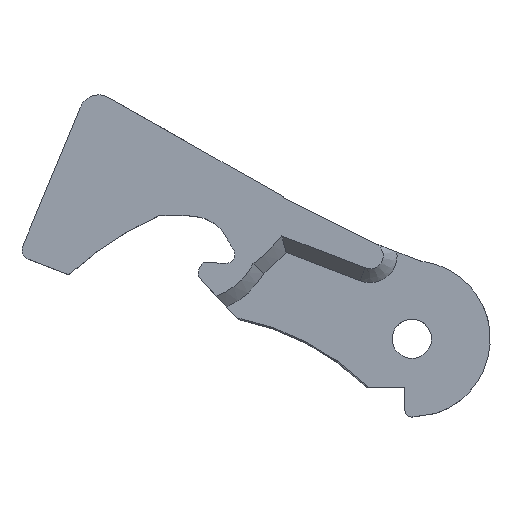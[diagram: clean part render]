
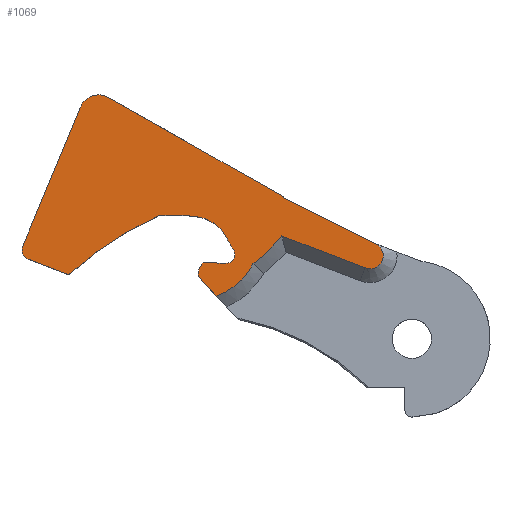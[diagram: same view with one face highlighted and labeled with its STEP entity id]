
A CAD part, top view. The second image highlights one B-rep face of the part: STEP entity #1069.
In plain terms, the highlighted planar face has unit normal (0, 0, 1).
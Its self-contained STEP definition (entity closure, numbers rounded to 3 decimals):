
#62=PLANE('',#1155);
#85=FACE_OUTER_BOUND('',#149,.T.);
#149=EDGE_LOOP('',(#718,#719,#720,#721,#722,#723,#724,#725,#726,#727,#728,
#729,#730,#731,#732,#733,#734,#735,#736,#737,#738));
#218=LINE('',#1650,#290);
#221=LINE('',#1658,#293);
#222=LINE('',#1662,#294);
#223=LINE('',#1682,#295);
#224=LINE('',#1688,#296);
#225=LINE('',#1692,#297);
#290=VECTOR('',#1300,10.);
#293=VECTOR('',#1307,10.);
#294=VECTOR('',#1310,10.);
#295=VECTOR('',#1329,10.);
#296=VECTOR('',#1334,10.);
#297=VECTOR('',#1337,10.);
#361=CIRCLE('',#1152,2.);
#362=CIRCLE('',#1156,1.);
#363=CIRCLE('',#1157,34.393);
#364=CIRCLE('',#1158,16.437);
#365=CIRCLE('',#1159,4.);
#366=CIRCLE('',#1160,15.);
#367=CIRCLE('',#1161,0.925);
#368=CIRCLE('',#1162,3.955);
#369=CIRCLE('',#1163,0.795);
#370=CIRCLE('',#1164,2.134);
#371=CIRCLE('',#1165,1.664);
#372=CIRCLE('',#1166,6.598);
#373=CIRCLE('',#1167,17.055);
#374=CIRCLE('',#1168,1.322);
#375=CIRCLE('',#1169,1.524);
#435=VERTEX_POINT('',#1643);
#436=VERTEX_POINT('',#1645);
#437=VERTEX_POINT('',#1649);
#440=VERTEX_POINT('',#1657);
#441=VERTEX_POINT('',#1659);
#442=VERTEX_POINT('',#1661);
#443=VERTEX_POINT('',#1663);
#444=VERTEX_POINT('',#1665);
#445=VERTEX_POINT('',#1667);
#446=VERTEX_POINT('',#1669);
#447=VERTEX_POINT('',#1671);
#448=VERTEX_POINT('',#1673);
#449=VERTEX_POINT('',#1675);
#450=VERTEX_POINT('',#1677);
#451=VERTEX_POINT('',#1679);
#452=VERTEX_POINT('',#1681);
#453=VERTEX_POINT('',#1683);
#454=VERTEX_POINT('',#1685);
#455=VERTEX_POINT('',#1687);
#456=VERTEX_POINT('',#1689);
#457=VERTEX_POINT('',#1691);
#544=EDGE_CURVE('',#435,#436,#361,.T.);
#546=EDGE_CURVE('',#436,#437,#218,.T.);
#550=EDGE_CURVE('',#435,#440,#221,.T.);
#551=EDGE_CURVE('',#441,#440,#362,.T.);
#552=EDGE_CURVE('',#441,#442,#222,.T.);
#553=EDGE_CURVE('',#442,#443,#363,.T.);
#554=EDGE_CURVE('',#443,#444,#364,.T.);
#555=EDGE_CURVE('',#444,#445,#365,.F.);
#556=EDGE_CURVE('',#446,#445,#366,.T.);
#557=EDGE_CURVE('',#446,#447,#367,.T.);
#558=EDGE_CURVE('',#447,#448,#368,.T.);
#559=EDGE_CURVE('',#448,#449,#369,.T.);
#560=EDGE_CURVE('',#449,#450,#370,.T.);
#561=EDGE_CURVE('',#450,#451,#371,.T.);
#562=EDGE_CURVE('',#451,#452,#223,.T.);
#563=EDGE_CURVE('',#452,#453,#372,.T.);
#564=EDGE_CURVE('',#453,#454,#373,.T.);
#565=EDGE_CURVE('',#455,#454,#224,.T.);
#566=EDGE_CURVE('',#456,#455,#374,.T.);
#567=EDGE_CURVE('',#456,#457,#225,.T.);
#568=EDGE_CURVE('',#457,#437,#375,.T.);
#718=ORIENTED_EDGE('',*,*,#544,.F.);
#719=ORIENTED_EDGE('',*,*,#550,.T.);
#720=ORIENTED_EDGE('',*,*,#551,.F.);
#721=ORIENTED_EDGE('',*,*,#552,.T.);
#722=ORIENTED_EDGE('',*,*,#553,.T.);
#723=ORIENTED_EDGE('',*,*,#554,.T.);
#724=ORIENTED_EDGE('',*,*,#555,.T.);
#725=ORIENTED_EDGE('',*,*,#556,.F.);
#726=ORIENTED_EDGE('',*,*,#557,.T.);
#727=ORIENTED_EDGE('',*,*,#558,.T.);
#728=ORIENTED_EDGE('',*,*,#559,.T.);
#729=ORIENTED_EDGE('',*,*,#560,.T.);
#730=ORIENTED_EDGE('',*,*,#561,.T.);
#731=ORIENTED_EDGE('',*,*,#562,.T.);
#732=ORIENTED_EDGE('',*,*,#563,.T.);
#733=ORIENTED_EDGE('',*,*,#564,.T.);
#734=ORIENTED_EDGE('',*,*,#565,.F.);
#735=ORIENTED_EDGE('',*,*,#566,.F.);
#736=ORIENTED_EDGE('',*,*,#567,.T.);
#737=ORIENTED_EDGE('',*,*,#568,.T.);
#738=ORIENTED_EDGE('',*,*,#546,.F.);
#1069=ADVANCED_FACE('',(#85),#62,.T.);
#1152=AXIS2_PLACEMENT_3D('',#1646,#1295,#1296);
#1155=AXIS2_PLACEMENT_3D('',#1656,#1305,#1306);
#1156=AXIS2_PLACEMENT_3D('',#1660,#1308,#1309);
#1157=AXIS2_PLACEMENT_3D('',#1664,#1311,#1312);
#1158=AXIS2_PLACEMENT_3D('',#1666,#1313,#1314);
#1159=AXIS2_PLACEMENT_3D('',#1668,#1315,#1316);
#1160=AXIS2_PLACEMENT_3D('',#1670,#1317,#1318);
#1161=AXIS2_PLACEMENT_3D('',#1672,#1319,#1320);
#1162=AXIS2_PLACEMENT_3D('',#1674,#1321,#1322);
#1163=AXIS2_PLACEMENT_3D('',#1676,#1323,#1324);
#1164=AXIS2_PLACEMENT_3D('',#1678,#1325,#1326);
#1165=AXIS2_PLACEMENT_3D('',#1680,#1327,#1328);
#1166=AXIS2_PLACEMENT_3D('',#1684,#1330,#1331);
#1167=AXIS2_PLACEMENT_3D('',#1686,#1332,#1333);
#1168=AXIS2_PLACEMENT_3D('',#1690,#1335,#1336);
#1169=AXIS2_PLACEMENT_3D('',#1693,#1338,#1339);
#1295=DIRECTION('center_axis',(0.,0.,-1.));
#1296=DIRECTION('ref_axis',(-0.324,0.946,0.));
#1300=DIRECTION('',(0.87,-0.494,0.));
#1305=DIRECTION('center_axis',(0.,0.,1.));
#1306=DIRECTION('ref_axis',(1.,0.,0.));
#1307=DIRECTION('',(-0.383,-0.924,0.));
#1308=DIRECTION('center_axis',(0.,0.,-1.));
#1309=DIRECTION('ref_axis',(-0.919,-0.394,0.));
#1310=DIRECTION('',(0.934,-0.358,0.));
#1311=DIRECTION('center_axis',(0.,0.,-1.));
#1312=DIRECTION('ref_axis',(0.41,-0.912,0.));
#1313=DIRECTION('center_axis',(0.,0.,-1.));
#1314=DIRECTION('ref_axis',(0.255,0.967,0.));
#1315=DIRECTION('center_axis',(0.,0.,1.));
#1316=DIRECTION('ref_axis',(-0.885,-0.466,0.));
#1317=DIRECTION('center_axis',(0.,0.,-1.));
#1318=DIRECTION('ref_axis',(-0.869,-0.494,0.));
#1319=DIRECTION('center_axis',(0.,0.,-1.));
#1320=DIRECTION('ref_axis',(-0.02,1.,0.));
#1321=DIRECTION('center_axis',(0.,0.,-1.));
#1322=DIRECTION('ref_axis',(0.204,0.979,0.));
#1323=DIRECTION('center_axis',(0.,0.,-1.));
#1324=DIRECTION('ref_axis',(0.387,0.922,0.));
#1325=DIRECTION('center_axis',(0.,0.,-1.));
#1326=DIRECTION('ref_axis',(0.215,0.977,0.));
#1327=DIRECTION('center_axis',(0.,0.,1.));
#1328=DIRECTION('ref_axis',(-0.654,0.757,0.));
#1329=DIRECTION('',(0.684,-0.729,0.));
#1330=DIRECTION('center_axis',(0.,0.,1.));
#1331=DIRECTION('ref_axis',(0.338,-0.941,0.));
#1332=DIRECTION('center_axis',(0.,0.,1.));
#1333=DIRECTION('ref_axis',(0.604,-0.797,0.));
#1334=DIRECTION('',(-0.934,0.358,0.));
#1335=DIRECTION('center_axis',(0.,0.,-1.));
#1336=DIRECTION('ref_axis',(0.358,0.934,0.));
#1337=DIRECTION('',(-0.895,0.445,0.));
#1338=DIRECTION('center_axis',(0.,0.,-1.));
#1339=DIRECTION('ref_axis',(0.934,-0.358,0.));
#1643=CARTESIAN_POINT('',(-33.346,23.302,3.813));
#1645=CARTESIAN_POINT('',(-30.511,24.275,3.813));
#1646=CARTESIAN_POINT('Origin',(-31.498,22.536,3.813));
#1649=CARTESIAN_POINT('',(-12.945,14.298,3.813));
#1650=CARTESIAN_POINT('',(-26.743,22.135,3.813));
#1656=CARTESIAN_POINT('Origin',(-25.059,13.756,3.813));
#1657=CARTESIAN_POINT('',(-39.147,9.325,3.813));
#1658=CARTESIAN_POINT('',(-34.108,21.466,3.813));
#1659=CARTESIAN_POINT('',(-38.582,8.008,3.813));
#1660=CARTESIAN_POINT('Origin',(-38.223,8.942,3.813));
#1661=CARTESIAN_POINT('',(-34.514,6.447,3.813));
#1662=CARTESIAN_POINT('',(-40.863,8.884,3.813));
#1663=CARTESIAN_POINT('',(-25.483,12.371,3.813));
#1664=CARTESIAN_POINT('Origin',(-11.369,-18.993,3.813));
#1665=CARTESIAN_POINT('',(-21.634,12.282,3.813));
#1666=CARTESIAN_POINT('Origin',(-23.936,-3.993,3.813));
#1667=CARTESIAN_POINT('',(-18.655,10.185,3.813));
#1668=CARTESIAN_POINT('Origin',(-22.194,8.321,3.813));
#1669=CARTESIAN_POINT('',(-17.962,9.002,3.813));
#1670=CARTESIAN_POINT('Origin',(-5.383,17.174,3.813));
#1671=CARTESIAN_POINT('',(-18.719,7.574,3.813));
#1672=CARTESIAN_POINT('Origin',(-18.737,8.498,3.813));
#1673=CARTESIAN_POINT('',(-19.765,7.65,3.813));
#1674=CARTESIAN_POINT('Origin',(-18.957,11.521,3.813));
#1675=CARTESIAN_POINT('',(-20.022,7.71,3.813));
#1676=CARTESIAN_POINT('Origin',(-19.715,8.444,3.813));
#1677=CARTESIAN_POINT('',(-20.941,7.71,3.813));
#1678=CARTESIAN_POINT('Origin',(-20.482,9.794,3.813));
#1679=CARTESIAN_POINT('',(-21.508,6.279,3.813));
#1680=CARTESIAN_POINT('Origin',(-19.853,6.451,3.813));
#1681=CARTESIAN_POINT('',(-19.65,4.297,3.813));
#1682=CARTESIAN_POINT('',(-21.508,6.279,3.813));
#1683=CARTESIAN_POINT('',(-15.987,7.542,3.813));
#1684=CARTESIAN_POINT('Origin',(-21.882,10.506,3.813));
#1685=CARTESIAN_POINT('',(-13.078,10.349,3.813));
#1686=CARTESIAN_POINT('Origin',(-26.29,21.133,3.813));
#1687=CARTESIAN_POINT('',(-4.688,7.128,3.813));
#1688=CARTESIAN_POINT('',(-4.688,7.128,3.813));
#1689=CARTESIAN_POINT('',(-3.74,9.598,3.813));
#1690=CARTESIAN_POINT('Origin',(-4.214,8.363,3.813));
#1691=CARTESIAN_POINT('',(-12.949,14.18,3.813));
#1692=CARTESIAN_POINT('',(-3.74,9.598,3.813));
#1693=CARTESIAN_POINT('Origin',(-11.425,14.18,3.813));
